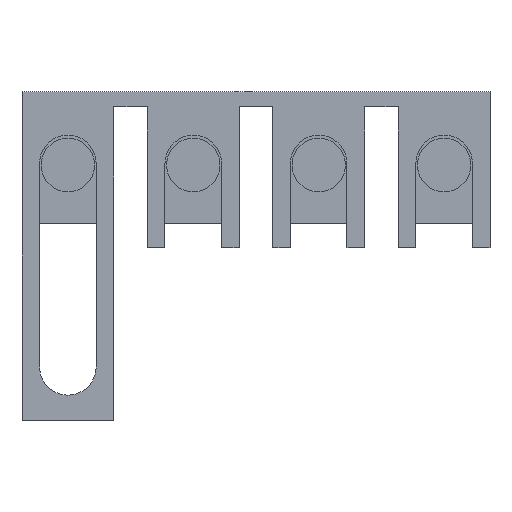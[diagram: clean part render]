
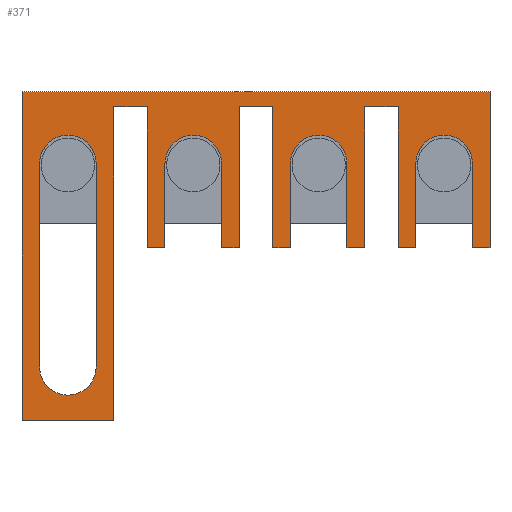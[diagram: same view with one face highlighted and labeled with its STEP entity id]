
A CAD part, front view. The second image highlights one B-rep face of the part: STEP entity #371.
In plain terms, the highlighted planar face has unit normal (0, -1, 0).
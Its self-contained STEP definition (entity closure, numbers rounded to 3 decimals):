
#101=CARTESIAN_POINT('',(-17.752,15.2,17.535));
#102=DIRECTION('',(1.,0.,0.));
#103=DIRECTION('',(0.,-1.,0.));
#104=AXIS2_PLACEMENT_3D('',#101,#103,#102);
#105=PLANE('',#104);
#106=CARTESIAN_POINT('',(-13.4,15.2,3.7));
#107=VERTEX_POINT('',#106);
#108=CARTESIAN_POINT('',(-11.2,15.2,3.7));
#109=VERTEX_POINT('',#108);
#110=CARTESIAN_POINT('',(-13.4,15.2,3.7));
#111=DIRECTION('',(1.,0.,0.));
#112=VECTOR('',#111,2.2);
#113=LINE('',#110,#112);
#114=EDGE_CURVE('',#107,#109,#113,.T.);
#115=ORIENTED_EDGE('E20',*,*,#114,.T.);
#116=CARTESIAN_POINT('',(-11.2,15.2,-5.5));
#117=VERTEX_POINT('',#116);
#118=CARTESIAN_POINT('',(-11.2,15.2,3.7));
#119=DIRECTION('',(0.,0.,-1.));
#120=VECTOR('',#119,9.2);
#121=LINE('',#118,#120);
#122=EDGE_CURVE('',#109,#117,#121,.T.);
#123=ORIENTED_EDGE('E21',*,*,#122,.T.);
#124=CARTESIAN_POINT('',(-10.05,15.2,-5.5));
#125=VERTEX_POINT('',#124);
#126=CARTESIAN_POINT('',(-11.2,15.2,-5.5));
#127=DIRECTION('',(1.,0.,0.));
#128=VECTOR('',#127,1.15);
#129=LINE('',#126,#128);
#130=EDGE_CURVE('',#117,#125,#129,.T.);
#131=ORIENTED_EDGE('E312',*,*,#130,.T.);
#132=CARTESIAN_POINT('',(-10.05,15.2,0.));
#133=VERTEX_POINT('',#132);
#134=CARTESIAN_POINT('',(-10.05,15.2,-5.5));
#135=DIRECTION('',(0.,0.,1.));
#136=VECTOR('',#135,5.5);
#137=LINE('',#134,#136);
#138=EDGE_CURVE('',#125,#133,#137,.T.);
#139=ORIENTED_EDGE('E23',*,*,#138,.T.);
#140=CARTESIAN_POINT('',(-6.35,15.2,0.));
#141=VERTEX_POINT('',#140);
#142=CARTESIAN_POINT('',(-8.2,15.2,0.));
#143=DIRECTION('',(-1.,0.,0.));
#144=DIRECTION('',(0.,1.,0.));
#145=AXIS2_PLACEMENT_3D('',#142,#144,#143);
#146=CIRCLE('',#145,1.85);
#147=EDGE_CURVE('',#133,#141,#146,.T.);
#148=ORIENTED_EDGE('E24',*,*,#147,.T.);
#149=CARTESIAN_POINT('',(-6.35,15.2,-5.5));
#150=VERTEX_POINT('',#149);
#151=CARTESIAN_POINT('',(-6.35,15.2,0.));
#152=DIRECTION('',(0.,0.,-1.));
#153=VECTOR('',#152,5.5);
#154=LINE('',#151,#153);
#155=EDGE_CURVE('',#141,#150,#154,.T.);
#156=ORIENTED_EDGE('E25',*,*,#155,.T.);
#157=CARTESIAN_POINT('',(-5.2,15.2,-5.5));
#158=VERTEX_POINT('',#157);
#159=CARTESIAN_POINT('',(-6.35,15.2,-5.5));
#160=DIRECTION('',(1.,0.,0.));
#161=VECTOR('',#160,1.15);
#162=LINE('',#159,#161);
#163=EDGE_CURVE('',#150,#158,#162,.T.);
#164=ORIENTED_EDGE('E311',*,*,#163,.T.);
#165=CARTESIAN_POINT('',(-5.2,15.2,3.7));
#166=VERTEX_POINT('',#165);
#167=CARTESIAN_POINT('',(-5.2,15.2,-5.5));
#168=DIRECTION('',(0.,0.,1.));
#169=VECTOR('',#168,9.2);
#170=LINE('',#167,#169);
#171=EDGE_CURVE('',#158,#166,#170,.T.);
#172=ORIENTED_EDGE('E27',*,*,#171,.T.);
#173=CARTESIAN_POINT('',(-3.,15.2,3.7));
#174=VERTEX_POINT('',#173);
#175=CARTESIAN_POINT('',(-5.2,15.2,3.7));
#176=DIRECTION('',(1.,0.,0.));
#177=VECTOR('',#176,2.2);
#178=LINE('',#175,#177);
#179=EDGE_CURVE('',#166,#174,#178,.T.);
#180=ORIENTED_EDGE('E28',*,*,#179,.T.);
#181=CARTESIAN_POINT('',(-3.,15.2,-5.5));
#182=VERTEX_POINT('',#181);
#183=CARTESIAN_POINT('',(-3.,15.2,3.7));
#184=DIRECTION('',(0.,0.,-1.));
#185=VECTOR('',#184,9.2);
#186=LINE('',#183,#185);
#187=EDGE_CURVE('',#174,#182,#186,.T.);
#188=ORIENTED_EDGE('E29',*,*,#187,.T.);
#189=CARTESIAN_POINT('',(-1.85,15.2,-5.5));
#190=VERTEX_POINT('',#189);
#191=CARTESIAN_POINT('',(-3.,15.2,-5.5));
#192=DIRECTION('',(1.,0.,0.));
#193=VECTOR('',#192,1.15);
#194=LINE('',#191,#193);
#195=EDGE_CURVE('',#182,#190,#194,.T.);
#196=ORIENTED_EDGE('E310',*,*,#195,.T.);
#197=CARTESIAN_POINT('',(-1.85,15.2,0.));
#198=VERTEX_POINT('',#197);
#199=CARTESIAN_POINT('',(-1.85,15.2,-5.5));
#200=DIRECTION('',(0.,0.,1.));
#201=VECTOR('',#200,5.5);
#202=LINE('',#199,#201);
#203=EDGE_CURVE('',#190,#198,#202,.T.);
#204=ORIENTED_EDGE('E31',*,*,#203,.T.);
#205=CARTESIAN_POINT('',(1.85,15.2,0.));
#206=VERTEX_POINT('',#205);
#207=CARTESIAN_POINT('',(0.,15.2,0.));
#208=DIRECTION('',(-1.,0.,0.));
#209=DIRECTION('',(0.,1.,0.));
#210=AXIS2_PLACEMENT_3D('',#207,#209,#208);
#211=CIRCLE('',#210,1.85);
#212=EDGE_CURVE('',#198,#206,#211,.T.);
#213=ORIENTED_EDGE('E32',*,*,#212,.T.);
#214=CARTESIAN_POINT('',(1.85,15.2,-5.5));
#215=VERTEX_POINT('',#214);
#216=CARTESIAN_POINT('',(1.85,15.2,0.));
#217=DIRECTION('',(0.,0.,-1.));
#218=VECTOR('',#217,5.5);
#219=LINE('',#216,#218);
#220=EDGE_CURVE('',#206,#215,#219,.T.);
#221=ORIENTED_EDGE('E33',*,*,#220,.T.);
#222=CARTESIAN_POINT('',(3.,15.2,-5.5));
#223=VERTEX_POINT('',#222);
#224=CARTESIAN_POINT('',(1.85,15.2,-5.5));
#225=DIRECTION('',(1.,0.,0.));
#226=VECTOR('',#225,1.15);
#227=LINE('',#224,#226);
#228=EDGE_CURVE('',#215,#223,#227,.T.);
#229=ORIENTED_EDGE('E308',*,*,#228,.T.);
#230=CARTESIAN_POINT('',(3.,15.2,3.7));
#231=VERTEX_POINT('',#230);
#232=CARTESIAN_POINT('',(3.,15.2,-5.5));
#233=DIRECTION('',(0.,0.,1.));
#234=VECTOR('',#233,9.2);
#235=LINE('',#232,#234);
#236=EDGE_CURVE('',#223,#231,#235,.T.);
#237=ORIENTED_EDGE('E34',*,*,#236,.T.);
#238=CARTESIAN_POINT('',(5.2,15.2,3.7));
#239=VERTEX_POINT('',#238);
#240=CARTESIAN_POINT('',(3.,15.2,3.7));
#241=DIRECTION('',(1.,0.,0.));
#242=VECTOR('',#241,2.2);
#243=LINE('',#240,#242);
#244=EDGE_CURVE('',#231,#239,#243,.T.);
#245=ORIENTED_EDGE('E35',*,*,#244,.T.);
#246=CARTESIAN_POINT('',(5.2,15.2,-5.5));
#247=VERTEX_POINT('',#246);
#248=CARTESIAN_POINT('',(5.2,15.2,3.7));
#249=DIRECTION('',(0.,0.,-1.));
#250=VECTOR('',#249,9.2);
#251=LINE('',#248,#250);
#252=EDGE_CURVE('',#239,#247,#251,.T.);
#253=ORIENTED_EDGE('E36',*,*,#252,.T.);
#254=CARTESIAN_POINT('',(6.35,15.2,-5.5));
#255=VERTEX_POINT('',#254);
#256=CARTESIAN_POINT('',(5.2,15.2,-5.5));
#257=DIRECTION('',(1.,0.,0.));
#258=VECTOR('',#257,1.15);
#259=LINE('',#256,#258);
#260=EDGE_CURVE('',#247,#255,#259,.T.);
#261=ORIENTED_EDGE('E305',*,*,#260,.T.);
#262=CARTESIAN_POINT('',(6.35,15.2,0.));
#263=VERTEX_POINT('',#262);
#264=CARTESIAN_POINT('',(6.35,15.2,-5.5));
#265=DIRECTION('',(0.,0.,1.));
#266=VECTOR('',#265,5.5);
#267=LINE('',#264,#266);
#268=EDGE_CURVE('',#255,#263,#267,.T.);
#269=ORIENTED_EDGE('E41',*,*,#268,.T.);
#270=CARTESIAN_POINT('',(10.05,15.2,0.));
#271=VERTEX_POINT('',#270);
#272=CARTESIAN_POINT('',(8.2,15.2,0.));
#273=DIRECTION('',(-1.,0.,0.));
#274=DIRECTION('',(0.,1.,0.));
#275=AXIS2_PLACEMENT_3D('',#272,#274,#273);
#276=CIRCLE('',#275,1.85);
#277=EDGE_CURVE('',#263,#271,#276,.T.);
#278=ORIENTED_EDGE('E42',*,*,#277,.T.);
#279=CARTESIAN_POINT('',(10.05,15.2,-5.5));
#280=VERTEX_POINT('',#279);
#281=CARTESIAN_POINT('',(10.05,15.2,0.));
#282=DIRECTION('',(0.,0.,-1.));
#283=VECTOR('',#282,5.5);
#284=LINE('',#281,#283);
#285=EDGE_CURVE('',#271,#280,#284,.T.);
#286=ORIENTED_EDGE('E39',*,*,#285,.T.);
#287=CARTESIAN_POINT('',(11.2,15.2,-5.5));
#288=VERTEX_POINT('',#287);
#289=CARTESIAN_POINT('',(10.05,15.2,-5.5));
#290=DIRECTION('',(1.,0.,0.));
#291=VECTOR('',#290,1.15);
#292=LINE('',#289,#291);
#293=EDGE_CURVE('',#280,#288,#292,.T.);
#294=ORIENTED_EDGE('E309',*,*,#293,.T.);
#295=CARTESIAN_POINT('',(11.2,15.2,4.7));
#296=VERTEX_POINT('',#295);
#297=CARTESIAN_POINT('',(11.2,15.2,-5.5));
#298=DIRECTION('',(0.,0.,1.));
#299=VECTOR('',#298,10.2);
#300=LINE('',#297,#299);
#301=EDGE_CURVE('',#288,#296,#300,.T.);
#302=ORIENTED_EDGE('E38',*,*,#301,.T.);
#303=CARTESIAN_POINT('',(-19.4,15.2,4.7));
#304=VERTEX_POINT('',#303);
#305=CARTESIAN_POINT('',(11.2,15.2,4.7));
#306=DIRECTION('',(-1.,0.,0.));
#307=VECTOR('',#306,30.6);
#308=LINE('',#305,#307);
#309=EDGE_CURVE('',#296,#304,#308,.T.);
#310=ORIENTED_EDGE('E12',*,*,#309,.T.);
#311=CARTESIAN_POINT('',(-19.4,15.2,-16.8));
#312=VERTEX_POINT('',#311);
#313=CARTESIAN_POINT('',(-19.4,15.2,-16.8));
#314=DIRECTION('',(0.,0.,1.));
#315=VECTOR('',#314,21.5);
#316=LINE('',#313,#315);
#317=EDGE_CURVE('',#312,#304,#316,.T.);
#318=ORIENTED_EDGE('E13',*,*,#317,.F.);
#319=CARTESIAN_POINT('',(-13.4,15.2,-16.8));
#320=VERTEX_POINT('',#319);
#321=CARTESIAN_POINT('',(-13.4,15.2,-16.8));
#322=DIRECTION('',(-1.,0.,0.));
#323=VECTOR('',#322,6.);
#324=LINE('',#321,#323);
#325=EDGE_CURVE('',#320,#312,#324,.T.);
#326=ORIENTED_EDGE('E298',*,*,#325,.F.);
#327=CARTESIAN_POINT('',(-13.4,15.2,-16.8));
#328=DIRECTION('',(0.,0.,1.));
#329=VECTOR('',#328,20.5);
#330=LINE('',#327,#329);
#331=EDGE_CURVE('',#320,#107,#330,.T.);
#332=ORIENTED_EDGE('E19',*,*,#331,.T.);
#333=EDGE_LOOP('',(#115,#123,#131,#139,#148,#156,#164,#172,#180,#188,#196,#204,#213,#221,#229,#237,#245,#253,#261,#269,#278,#286,#294,#302,#310,#318,#326,#332));
#334=FACE_OUTER_BOUND('',#333,.T.);
#335=CARTESIAN_POINT('',(-18.25,15.2,-13.3));
#336=VERTEX_POINT('',#335);
#337=CARTESIAN_POINT('',(-14.55,15.2,-13.3));
#338=VERTEX_POINT('',#337);
#339=CARTESIAN_POINT('',(-16.4,15.2,-13.3));
#340=DIRECTION('',(-1.,0.,0.));
#341=DIRECTION('',(0.,-1.,0.));
#342=AXIS2_PLACEMENT_3D('',#339,#341,#340);
#343=CIRCLE('',#342,1.85);
#344=EDGE_CURVE('',#336,#338,#343,.T.);
#345=ORIENTED_EDGE('E297',*,*,#344,.F.);
#346=CARTESIAN_POINT('',(-18.25,15.2,0.));
#347=VERTEX_POINT('',#346);
#348=CARTESIAN_POINT('',(-18.25,15.2,-13.3));
#349=DIRECTION('',(0.,0.,1.));
#350=VECTOR('',#349,13.3);
#351=LINE('',#348,#350);
#352=EDGE_CURVE('',#336,#347,#351,.T.);
#353=ORIENTED_EDGE('E15',*,*,#352,.T.);
#354=CARTESIAN_POINT('',(-14.55,15.2,0.));
#355=VERTEX_POINT('',#354);
#356=CARTESIAN_POINT('',(-16.4,15.2,0.));
#357=DIRECTION('',(-1.,0.,0.));
#358=DIRECTION('',(0.,1.,0.));
#359=AXIS2_PLACEMENT_3D('',#356,#358,#357);
#360=CIRCLE('',#359,1.85);
#361=EDGE_CURVE('',#347,#355,#360,.T.);
#362=ORIENTED_EDGE('E16',*,*,#361,.T.);
#363=CARTESIAN_POINT('',(-14.55,15.2,-13.3));
#364=DIRECTION('',(0.,0.,1.));
#365=VECTOR('',#364,13.3);
#366=LINE('',#363,#365);
#367=EDGE_CURVE('',#338,#355,#366,.T.);
#368=ORIENTED_EDGE('E17',*,*,#367,.F.);
#369=EDGE_LOOP('',(#345,#353,#362,#368));
#370=FACE_BOUND('',#369,.T.);
#371=ADVANCED_FACE('F4',(#334,#370),#105,.T.);
